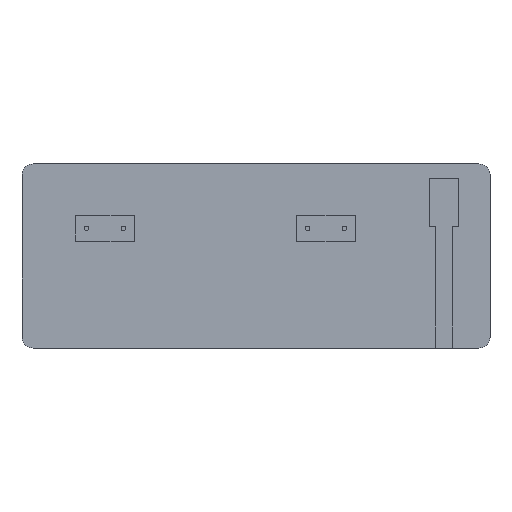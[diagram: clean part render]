
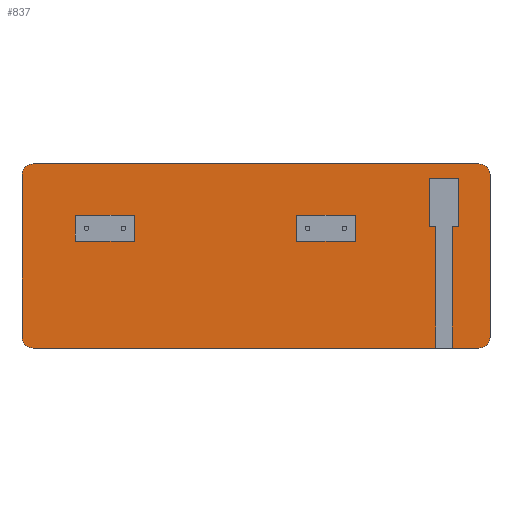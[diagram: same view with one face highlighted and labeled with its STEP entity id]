
A CAD part, top view. The second image highlights one B-rep face of the part: STEP entity #837.
In plain terms, the highlighted planar face has unit normal (0, 0, 1).
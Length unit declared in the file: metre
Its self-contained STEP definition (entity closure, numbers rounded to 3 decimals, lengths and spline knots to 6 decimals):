
#20=CIRCLE('',#902,0.006);
#21=CIRCLE('',#903,0.006);
#22=CIRCLE('',#904,0.006);
#23=CIRCLE('',#905,0.006);
#48=ORIENTED_EDGE('',*,*,#280,.F.);
#49=ORIENTED_EDGE('',*,*,#281,.T.);
#50=ORIENTED_EDGE('',*,*,#282,.F.);
#51=ORIENTED_EDGE('',*,*,#283,.F.);
#52=ORIENTED_EDGE('',*,*,#284,.T.);
#53=ORIENTED_EDGE('',*,*,#285,.T.);
#54=ORIENTED_EDGE('',*,*,#286,.T.);
#55=ORIENTED_EDGE('',*,*,#274,.T.);
#56=ORIENTED_EDGE('',*,*,#287,.T.);
#57=ORIENTED_EDGE('',*,*,#288,.T.);
#58=ORIENTED_EDGE('',*,*,#289,.T.);
#59=ORIENTED_EDGE('',*,*,#278,.F.);
#60=ORIENTED_EDGE('',*,*,#290,.T.);
#61=ORIENTED_EDGE('',*,*,#291,.F.);
#62=ORIENTED_EDGE('',*,*,#292,.T.);
#63=ORIENTED_EDGE('',*,*,#270,.T.);
#64=ORIENTED_EDGE('',*,*,#293,.F.);
#65=ORIENTED_EDGE('',*,*,#294,.F.);
#66=ORIENTED_EDGE('',*,*,#295,.T.);
#67=ORIENTED_EDGE('',*,*,#296,.T.);
#68=ORIENTED_EDGE('',*,*,#297,.F.);
#69=ORIENTED_EDGE('',*,*,#298,.F.);
#70=ORIENTED_EDGE('',*,*,#299,.T.);
#71=ORIENTED_EDGE('',*,*,#300,.T.);
#270=EDGE_CURVE('',#387,#386,#466,.T.);
#274=EDGE_CURVE('',#391,#390,#470,.T.);
#278=EDGE_CURVE('',#394,#395,#474,.T.);
#280=EDGE_CURVE('',#396,#386,#476,.T.);
#281=EDGE_CURVE('',#396,#397,#477,.T.);
#282=EDGE_CURVE('',#398,#397,#478,.T.);
#283=EDGE_CURVE('',#399,#398,#479,.T.);
#284=EDGE_CURVE('',#399,#400,#480,.T.);
#285=EDGE_CURVE('',#400,#401,#481,.T.);
#286=EDGE_CURVE('',#401,#391,#482,.T.);
#287=EDGE_CURVE('',#390,#402,#20,.T.);
#288=EDGE_CURVE('',#402,#403,#483,.T.);
#289=EDGE_CURVE('',#403,#395,#21,.T.);
#290=EDGE_CURVE('',#394,#404,#22,.T.);
#291=EDGE_CURVE('',#405,#404,#484,.T.);
#292=EDGE_CURVE('',#405,#387,#23,.T.);
#293=EDGE_CURVE('',#406,#407,#485,.T.);
#294=EDGE_CURVE('',#408,#406,#486,.T.);
#295=EDGE_CURVE('',#408,#409,#487,.T.);
#296=EDGE_CURVE('',#409,#407,#488,.T.);
#297=EDGE_CURVE('',#410,#411,#489,.T.);
#298=EDGE_CURVE('',#412,#410,#490,.T.);
#299=EDGE_CURVE('',#412,#413,#491,.T.);
#300=EDGE_CURVE('',#413,#411,#492,.T.);
#386=VERTEX_POINT('',#1208);
#387=VERTEX_POINT('',#1210);
#390=VERTEX_POINT('',#1216);
#391=VERTEX_POINT('',#1218);
#394=VERTEX_POINT('',#1225);
#395=VERTEX_POINT('',#1227);
#396=VERTEX_POINT('',#1231);
#397=VERTEX_POINT('',#1233);
#398=VERTEX_POINT('',#1235);
#399=VERTEX_POINT('',#1237);
#400=VERTEX_POINT('',#1239);
#401=VERTEX_POINT('',#1241);
#402=VERTEX_POINT('',#1244);
#403=VERTEX_POINT('',#1246);
#404=VERTEX_POINT('',#1249);
#405=VERTEX_POINT('',#1251);
#406=VERTEX_POINT('',#1254);
#407=VERTEX_POINT('',#1255);
#408=VERTEX_POINT('',#1257);
#409=VERTEX_POINT('',#1259);
#410=VERTEX_POINT('',#1262);
#411=VERTEX_POINT('',#1263);
#412=VERTEX_POINT('',#1265);
#413=VERTEX_POINT('',#1267);
#466=LINE('',#1209,#566);
#470=LINE('',#1217,#570);
#474=LINE('',#1226,#574);
#476=LINE('',#1230,#576);
#477=LINE('',#1232,#577);
#478=LINE('',#1234,#578);
#479=LINE('',#1236,#579);
#480=LINE('',#1238,#580);
#481=LINE('',#1240,#581);
#482=LINE('',#1242,#582);
#483=LINE('',#1245,#583);
#484=LINE('',#1250,#584);
#485=LINE('',#1253,#585);
#486=LINE('',#1256,#586);
#487=LINE('',#1258,#587);
#488=LINE('',#1260,#588);
#489=LINE('',#1261,#589);
#490=LINE('',#1264,#590);
#491=LINE('',#1266,#591);
#492=LINE('',#1268,#592);
#566=VECTOR('',#972,1.);
#570=VECTOR('',#976,1.);
#574=VECTOR('',#982,1.);
#576=VECTOR('',#986,1.);
#577=VECTOR('',#987,1.);
#578=VECTOR('',#988,1.);
#579=VECTOR('',#989,1.);
#580=VECTOR('',#990,1.);
#581=VECTOR('',#991,1.);
#582=VECTOR('',#992,1.);
#583=VECTOR('',#995,1.);
#584=VECTOR('',#1000,1.);
#585=VECTOR('',#1003,1.);
#586=VECTOR('',#1004,1.);
#587=VECTOR('',#1005,1.);
#588=VECTOR('',#1006,1.);
#589=VECTOR('',#1007,1.);
#590=VECTOR('',#1008,1.);
#591=VECTOR('',#1009,1.);
#592=VECTOR('',#1010,1.);
#666=EDGE_LOOP('',(#48,#49,#50,#51,#52,#53,#54,#55,#56,#57,#58,#59,#60,
#61,#62,#63));
#667=EDGE_LOOP('',(#64,#65,#66,#67));
#668=EDGE_LOOP('',(#68,#69,#70,#71));
#730=FACE_BOUND('',#666,.T.);
#731=FACE_BOUND('',#667,.T.);
#732=FACE_BOUND('',#668,.T.);
#794=PLANE('',#901);
#837=ADVANCED_FACE('',(#730,#731,#732),#794,.T.);
#901=AXIS2_PLACEMENT_3D('',#1229,#984,#985);
#902=AXIS2_PLACEMENT_3D('',#1243,#993,#994);
#903=AXIS2_PLACEMENT_3D('',#1247,#996,#997);
#904=AXIS2_PLACEMENT_3D('',#1248,#998,#999);
#905=AXIS2_PLACEMENT_3D('',#1252,#1001,#1002);
#972=DIRECTION('',(1.,0.,0.));
#976=DIRECTION('',(1.,0.,0.));
#982=DIRECTION('',(1.,0.,0.));
#984=DIRECTION('',(0.,0.,1.));
#985=DIRECTION('',(1.,0.,0.));
#986=DIRECTION('',(0.,-1.,0.));
#987=DIRECTION('',(-1.,0.,0.));
#988=DIRECTION('',(0.,-1.,0.));
#989=DIRECTION('',(-1.,0.,0.));
#990=DIRECTION('',(0.,-1.,0.));
#991=DIRECTION('',(-1.,0.,0.));
#992=DIRECTION('',(0.,-1.,0.));
#993=DIRECTION('',(0.,0.,1.));
#994=DIRECTION('',(1.,0.,0.));
#995=DIRECTION('',(0.,1.,0.));
#996=DIRECTION('',(0.,0.,1.));
#997=DIRECTION('',(1.,0.,0.));
#998=DIRECTION('',(0.,0.,1.));
#999=DIRECTION('',(1.,0.,0.));
#1000=DIRECTION('',(0.,1.,0.));
#1001=DIRECTION('',(0.,0.,1.));
#1002=DIRECTION('',(1.,0.,0.));
#1003=DIRECTION('',(0.,-1.,0.));
#1004=DIRECTION('',(-1.,0.,0.));
#1005=DIRECTION('',(0.,-1.,0.));
#1006=DIRECTION('',(-1.,0.,0.));
#1007=DIRECTION('',(0.,-1.,0.));
#1008=DIRECTION('',(-1.,0.,0.));
#1009=DIRECTION('',(0.,-1.,0.));
#1010=DIRECTION('',(-1.,0.,0.));
#1208=CARTESIAN_POINT('',(0.2245,-0.125,0.012));
#1209=CARTESIAN_POINT('',(0.127,-0.125,0.012));
#1210=CARTESIAN_POINT('',(0.006,-0.125,0.012));
#1216=CARTESIAN_POINT('',(0.248,-0.125,0.012));
#1217=CARTESIAN_POINT('',(0.127,-0.125,0.012));
#1218=CARTESIAN_POINT('',(0.2335,-0.125,0.012));
#1225=CARTESIAN_POINT('',(0.006,-0.025,0.012));
#1226=CARTESIAN_POINT('',(0.127,-0.025,0.012));
#1227=CARTESIAN_POINT('',(0.248,-0.025,0.012));
#1229=CARTESIAN_POINT('',(0.127,-0.075,0.012));
#1230=CARTESIAN_POINT('',(0.2245,-0.075,0.012));
#1231=CARTESIAN_POINT('',(0.2245,-0.059,0.012));
#1232=CARTESIAN_POINT('',(0.127,-0.059,0.012));
#1233=CARTESIAN_POINT('',(0.221,-0.059,0.012));
#1234=CARTESIAN_POINT('',(0.221,-0.075,0.012));
#1235=CARTESIAN_POINT('',(0.221,-0.033,0.012));
#1236=CARTESIAN_POINT('',(0.127,-0.033,0.012));
#1237=CARTESIAN_POINT('',(0.237,-0.033,0.012));
#1238=CARTESIAN_POINT('',(0.237,-0.075,0.012));
#1239=CARTESIAN_POINT('',(0.237,-0.059,0.012));
#1240=CARTESIAN_POINT('',(0.127,-0.059,0.012));
#1241=CARTESIAN_POINT('',(0.2335,-0.059,0.012));
#1242=CARTESIAN_POINT('',(0.2335,-0.075,0.012));
#1243=CARTESIAN_POINT('',(0.248,-0.119,0.012));
#1244=CARTESIAN_POINT('',(0.254,-0.119,0.012));
#1245=CARTESIAN_POINT('',(0.254,-0.075,0.012));
#1246=CARTESIAN_POINT('',(0.254,-0.031,0.012));
#1247=CARTESIAN_POINT('',(0.248,-0.031,0.012));
#1248=CARTESIAN_POINT('',(0.006,-0.031,0.012));
#1249=CARTESIAN_POINT('',(0.,-0.031,0.012));
#1250=CARTESIAN_POINT('',(0.,-0.075,0.012));
#1251=CARTESIAN_POINT('',(0.,-0.119,0.012));
#1252=CARTESIAN_POINT('',(0.006,-0.119,0.012));
#1253=CARTESIAN_POINT('',(0.029,-0.075,0.012));
#1254=CARTESIAN_POINT('',(0.029,-0.053,0.012));
#1255=CARTESIAN_POINT('',(0.029,-0.067,0.012));
#1256=CARTESIAN_POINT('',(0.127,-0.053,0.012));
#1257=CARTESIAN_POINT('',(0.061,-0.053,0.012));
#1258=CARTESIAN_POINT('',(0.061,-0.075,0.012));
#1259=CARTESIAN_POINT('',(0.061,-0.067,0.012));
#1260=CARTESIAN_POINT('',(0.127,-0.067,0.012));
#1261=CARTESIAN_POINT('',(0.149,-0.075,0.012));
#1262=CARTESIAN_POINT('',(0.149,-0.053,0.012));
#1263=CARTESIAN_POINT('',(0.149,-0.067,0.012));
#1264=CARTESIAN_POINT('',(0.127,-0.053,0.012));
#1265=CARTESIAN_POINT('',(0.181,-0.053,0.012));
#1266=CARTESIAN_POINT('',(0.181,-0.075,0.012));
#1267=CARTESIAN_POINT('',(0.181,-0.067,0.012));
#1268=CARTESIAN_POINT('',(0.127,-0.067,0.012));
